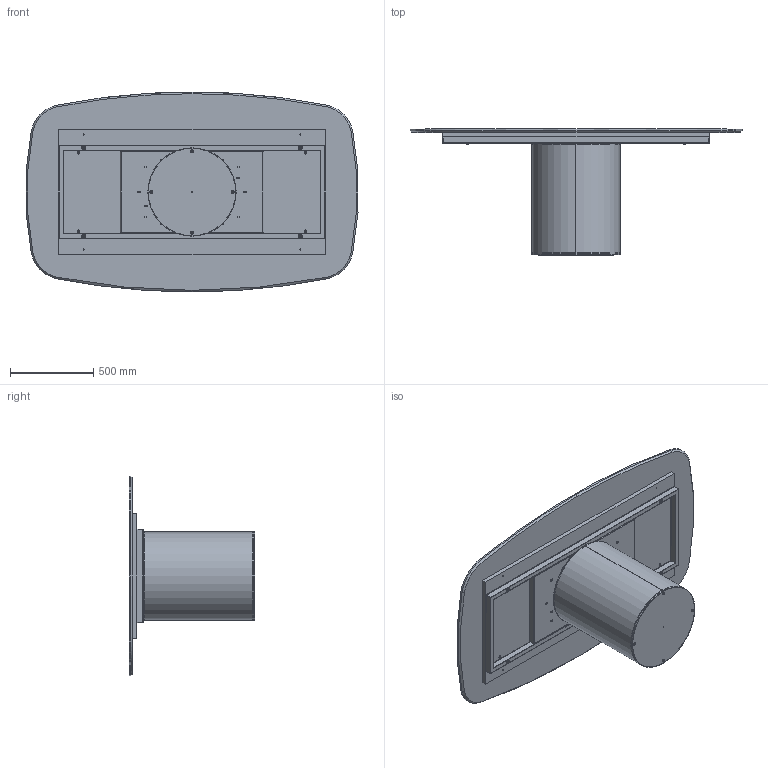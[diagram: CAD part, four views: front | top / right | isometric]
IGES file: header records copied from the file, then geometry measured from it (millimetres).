
Start section: SolidWorks IGES file using analytic representation for surfaces
Global section: file name: Y:\eforma\TECNICO\SOLIDWORKS\E-FORMA\1-TAVOLI\CILINDRO\02 parts\CI41M.IGS; native system: SolidWorks 2022; preprocessor: SolidWorks 2022; author: eforma.tech; date: 240808.092521; units: millimetre
Bounding box: 1992.14 x 755 x 1200 mm (x, y, z)
Volume: 82108171.9 mm3; surface area: 12084464.3 mm2
Topology: 21 solids, 21 shells, 776 faces, 1834 edges, 1057 vertices
Faces by surface type: revolution 478, plane 298
